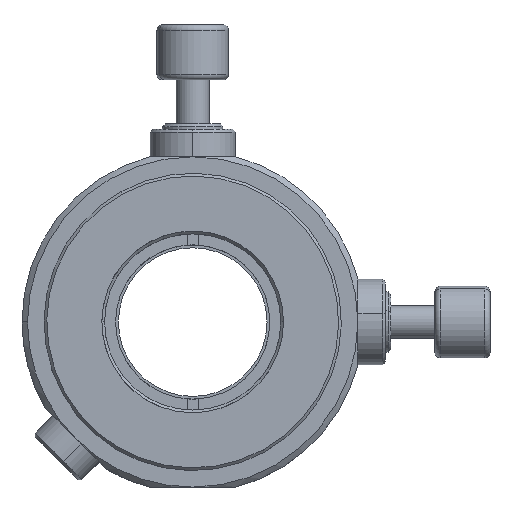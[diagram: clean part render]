
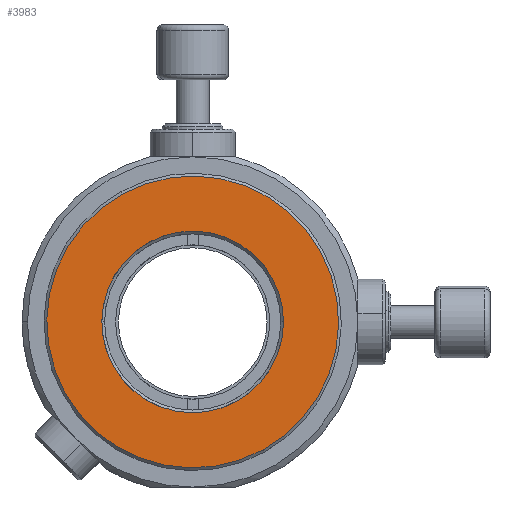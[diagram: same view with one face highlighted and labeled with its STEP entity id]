
A CAD part, top view. The second image highlights one B-rep face of the part: STEP entity #3983.
In plain terms, the highlighted planar face has unit normal (0, 0, 1).
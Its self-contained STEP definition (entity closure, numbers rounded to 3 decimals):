
#84 = EDGE_CURVE ( 'NONE', #5855, #5850, #7090, .T. ) ;
#114 = EDGE_CURVE ( 'NONE', #5850, #5855, #2558, .T. ) ;
#127 = CARTESIAN_POINT ( 'NONE',  ( 1.422, -0.209, 23. ) ) ;
#427 = CIRCLE ( 'NONE', #5503, 16.5 ) ;
#530 = AXIS2_PLACEMENT_3D ( 'NONE', #2062, #6216, #6126 ) ;
#673 = DIRECTION ( 'NONE',  ( -0.483, 0.876, 0. ) ) ;
#730 = CARTESIAN_POINT ( 'NONE',  ( -6.541, 14.242, 23. ) ) ;
#1235 = CIRCLE ( 'NONE', #5456, 16.5 ) ;
#1411 = EDGE_CURVE ( 'NONE', #1459, #6073, #427, .T. ) ;
#1459 = VERTEX_POINT ( 'NONE', #730 ) ;
#1811 = ORIENTED_EDGE ( 'NONE', *, *, #2441, .T. ) ;
#1814 = PLANE ( 'NONE',  #2794 ) ;
#2010 = CARTESIAN_POINT ( 'NONE',  ( -11.366, 23.001, 23. ) ) ;
#2045 = ORIENTED_EDGE ( 'NONE', *, *, #84, .T. ) ;
#2062 = CARTESIAN_POINT ( 'NONE',  ( 1.422, -0.209, 23. ) ) ;
#2099 = DIRECTION ( 'NONE',  ( -0.483, 0.876, 0. ) ) ;
#2128 = CARTESIAN_POINT ( 'NONE',  ( 1.422, -0.209, 23. ) ) ;
#2441 = EDGE_CURVE ( 'NONE', #6073, #1459, #1235, .T. ) ;
#2558 = CIRCLE ( 'NONE', #7214, 26.5 ) ;
#2794 = AXIS2_PLACEMENT_3D ( 'NONE', #2983, #6668, #4798 ) ;
#2955 = FACE_BOUND ( 'NONE', #6704, .T. ) ;
#2983 = CARTESIAN_POINT ( 'NONE',  ( 1.422, -0.209, 23. ) ) ;
#3252 = EDGE_LOOP ( 'NONE', ( #2045, #6125 ) ) ;
#3272 = CARTESIAN_POINT ( 'NONE',  ( 14.21, -23.42, 23. ) ) ;
#3401 = ORIENTED_EDGE ( 'NONE', *, *, #1411, .T. ) ;
#3870 = DIRECTION ( 'NONE',  ( 0., 0., -1. ) ) ;
#3983 = ADVANCED_FACE ( 'NONE', ( #5926, #2955 ), #1814, .F. ) ;
#4798 = DIRECTION ( 'NONE',  ( -0.483, 0.876, 0. ) ) ;
#4936 = DIRECTION ( 'NONE',  ( -0.483, 0.876, 0. ) ) ;
#5456 = AXIS2_PLACEMENT_3D ( 'NONE', #7420, #3870, #4936 ) ;
#5467 = DIRECTION ( 'NONE',  ( 0., 0., -1. ) ) ;
#5503 = AXIS2_PLACEMENT_3D ( 'NONE', #127, #5467, #673 ) ;
#5850 = VERTEX_POINT ( 'NONE', #3272 ) ;
#5855 = VERTEX_POINT ( 'NONE', #2010 ) ;
#5926 = FACE_OUTER_BOUND ( 'NONE', #3252, .T. ) ;
#6073 = VERTEX_POINT ( 'NONE', #6493 ) ;
#6125 = ORIENTED_EDGE ( 'NONE', *, *, #114, .T. ) ;
#6126 = DIRECTION ( 'NONE',  ( -0.483, 0.876, 0. ) ) ;
#6216 = DIRECTION ( 'NONE',  ( 0., 0., 1. ) ) ;
#6280 = DIRECTION ( 'NONE',  ( 0., 0., 1. ) ) ;
#6493 = CARTESIAN_POINT ( 'NONE',  ( 9.384, -14.661, 23. ) ) ;
#6668 = DIRECTION ( 'NONE',  ( 0., 0., -1. ) ) ;
#6704 = EDGE_LOOP ( 'NONE', ( #3401, #1811 ) ) ;
#7090 = CIRCLE ( 'NONE', #530, 26.5 ) ;
#7214 = AXIS2_PLACEMENT_3D ( 'NONE', #2128, #6280, #2099 ) ;
#7420 = CARTESIAN_POINT ( 'NONE',  ( 1.422, -0.209, 23. ) ) ;
